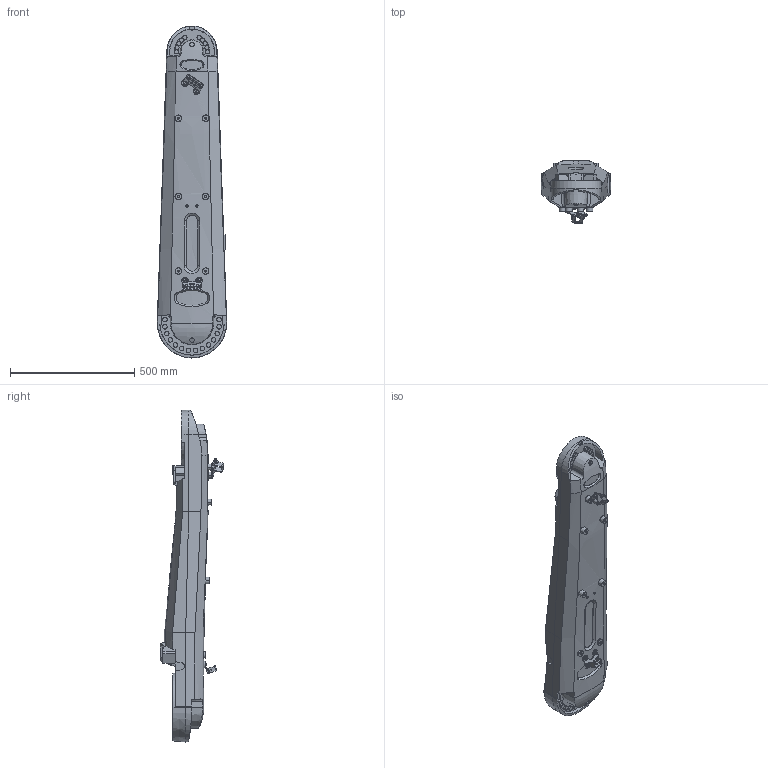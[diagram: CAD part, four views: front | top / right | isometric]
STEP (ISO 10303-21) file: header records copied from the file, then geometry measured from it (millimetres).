
FILE_DESCRIPTION (( 'STEP AP214' ), '1' );
FILE_NAME ('IRB4600_40-255_link2_CAD_03.STEP', '2012-06-25T12:02:10', ( 'ABB' ), ( 'ABB' ), 'SwSTEP 2.0', 'SolidWorks 2010', '' );
FILE_SCHEMA (( 'AUTOMOTIVE_DESIGN' ));
Length unit declared in the file: millimetre
Products named in the file (1): IRB4600_40-255_link2_CAD_03
Bounding box: 280 x 256.21 x 1336.5 mm (x, y, z)
Volume: 34305148.8 mm3; surface area: 1046419.4 mm2
Topology: 1 solids, 1 shells, 724 faces, 1818 edges, 1139 vertices
Faces by surface type: plane 337, cylinder 226, cone 75, bspline 72, torus 10, sphere 4
Entity records: 30256 total; most frequent: CARTESIAN_POINT 13392, ORIENTED_EDGE 3600, DIRECTION 3308, EDGE_CURVE 1800, AXIS2_PLACEMENT_3D 1179, VERTEX_POINT 1139, VECTOR 950, LINE 950
